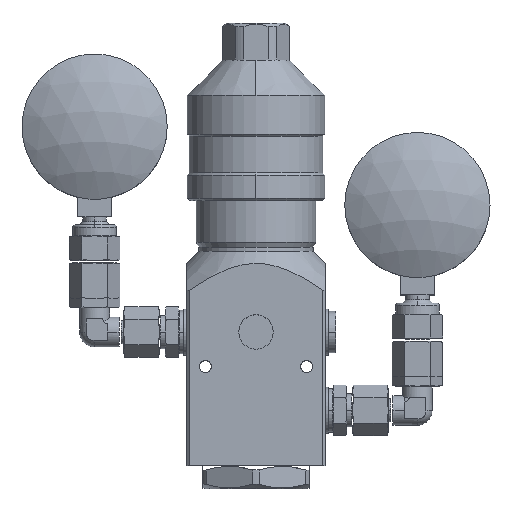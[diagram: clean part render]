
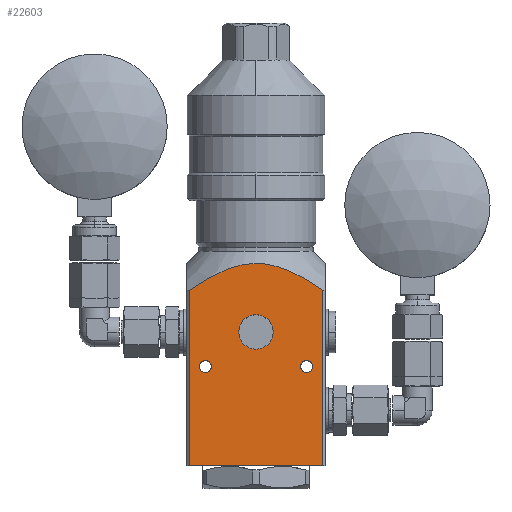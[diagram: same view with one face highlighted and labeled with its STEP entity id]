
A CAD part, top view. The second image highlights one B-rep face of the part: STEP entity #22603.
In plain terms, the highlighted planar face has unit normal (0, 0, 1).
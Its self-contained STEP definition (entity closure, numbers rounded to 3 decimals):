
#59 = CARTESIAN_POINT ( 'NONE',  ( 7.053, 96.938, 30. ) ) ;
#76 = EDGE_CURVE ( 'NONE', #4146, #11658, #7155, .T. ) ;
#170 = DIRECTION ( 'NONE',  ( -1., 0., 0. ) ) ;
#496 = CARTESIAN_POINT ( 'NONE',  ( 0., 68., 30. ) ) ;
#589 = CARTESIAN_POINT ( 'NONE',  ( 0., 10., 30. ) ) ;
#962 = CIRCLE ( 'NONE', #24621, 7.475 ) ;
#1525 = VERTEX_POINT ( 'NONE', #17436 ) ;
#1752 = CIRCLE ( 'NONE', #23111, 2.65 ) ;
#1847 = CARTESIAN_POINT ( 'NONE',  ( -29., 86.025, 30. ) ) ;
#1924 = CARTESIAN_POINT ( 'NONE',  ( -7.438, 96.848, 30. ) ) ;
#1992 = CARTESIAN_POINT ( 'NONE',  ( 12.776, 95.215, 30. ) ) ;
#2065 = CARTESIAN_POINT ( 'NONE',  ( -29., 10., 30. ) ) ;
#2164 = ORIENTED_EDGE ( 'NONE', *, *, #8596, .T. ) ;
#2239 = CARTESIAN_POINT ( 'NONE',  ( 0., 68., 30. ) ) ;
#2438 = DIRECTION ( 'NONE',  ( 1., 0., 0. ) ) ;
#2689 = DIRECTION ( 'NONE',  ( 0., 0., 1. ) ) ;
#3313 = B_SPLINE_CURVE_WITH_KNOTS ( 'NONE', 3,
 ( #1847, #20904, #9506, #22820, #11475, #24710, #13356, #1924, #15249, #3853, #17165, #5751, #19090, #7659, #20975, #9589, #22892, #11548, #59, #13441, #1992, #15329, #3929, #17253, #5818, #19176, #7735, #21048 ),
 .UNSPECIFIED., .F., .F.,
 ( 4, 2, 2, 2, 2, 2, 2, 2, 2, 2, 2, 2, 2, 4 ),
 ( 0., 0.008, 0.016, 0.023, 0.025, 0.027, 0.031, 0.035, 0.037, 0.039, 0.047, 0.051, 0.055, 0.063 ),
 .UNSPECIFIED. ) ;
#3622 = CARTESIAN_POINT ( 'NONE',  ( 29., 10., 30. ) ) ;
#3816 = EDGE_CURVE ( 'NONE', #23289, #4146, #3313, .T. ) ;
#3853 = CARTESIAN_POINT ( 'NONE',  ( -5.471, 97.262, 30. ) ) ;
#3929 = CARTESIAN_POINT ( 'NONE',  ( 17.627, 92.969, 30. ) ) ;
#4146 = VERTEX_POINT ( 'NONE', #16387 ) ;
#4152 = DIRECTION ( 'NONE',  ( 1., 0., 0. ) ) ;
#4468 = EDGE_LOOP ( 'NONE', ( #14265, #2164, #23247, #21117 ) ) ;
#4993 = EDGE_LOOP ( 'NONE', ( #19488, #20575 ) ) ;
#5709 = CARTESIAN_POINT ( 'NONE',  ( -29., 125.015, 30. ) ) ;
#5751 = CARTESIAN_POINT ( 'NONE',  ( -2.843, 97.644, 30. ) ) ;
#5818 = CARTESIAN_POINT ( 'NONE',  ( 21.143, 91.06, 30. ) ) ;
#5948 = VECTOR ( 'NONE', #10641, 1000. ) ;
#6138 = AXIS2_PLACEMENT_3D ( 'NONE', #2239, #15558, #4152 ) ;
#6564 = EDGE_LOOP ( 'NONE', ( #15230, #21639 ) ) ;
#6759 = AXIS2_PLACEMENT_3D ( 'NONE', #7937, #21254, #9896 ) ;
#7147 = FACE_BOUND ( 'NONE', #4993, .T. ) ;
#7155 = LINE ( 'NONE', #9078, #5948 ) ;
#7608 = DIRECTION ( 'NONE',  ( 0., -1., 0. ) ) ;
#7659 = CARTESIAN_POINT ( 'NONE',  ( 1.111, 97.758, 30. ) ) ;
#7734 = FACE_OUTER_BOUND ( 'NONE', #4468, .T. ) ;
#7735 = CARTESIAN_POINT ( 'NONE',  ( 26.806, 87.549, 30. ) ) ;
#7889 = CARTESIAN_POINT ( 'NONE',  ( -24.65, 53., 30. ) ) ;
#7937 = CARTESIAN_POINT ( 'NONE',  ( -22., 53., 30. ) ) ;
#8596 = EDGE_CURVE ( 'NONE', #23289, #19278, #9803, .T. ) ;
#9078 = CARTESIAN_POINT ( 'NONE',  ( 29., 125.015, 30. ) ) ;
#9327 = CARTESIAN_POINT ( 'NONE',  ( 22., 53., 30. ) ) ;
#9448 = VERTEX_POINT ( 'NONE', #7889 ) ;
#9463 = VERTEX_POINT ( 'NONE', #21211 ) ;
#9506 = CARTESIAN_POINT ( 'NONE',  ( -24.638, 88.971, 30. ) ) ;
#9589 = CARTESIAN_POINT ( 'NONE',  ( 4.42, 97.433, 30. ) ) ;
#9803 = LINE ( 'NONE', #5709, #19338 ) ;
#9896 = DIRECTION ( 'NONE',  ( -1., 0., 0. ) ) ;
#10037 = DIRECTION ( 'NONE',  ( 0., 0., -1. ) ) ;
#10064 = EDGE_CURVE ( 'NONE', #15206, #17975, #10385, .T. ) ;
#10116 = DIRECTION ( 'NONE',  ( 1., 0., 0. ) ) ;
#10385 = CIRCLE ( 'NONE', #19588, 2.65 ) ;
#10641 = DIRECTION ( 'NONE',  ( 0., -1., 0. ) ) ;
#10900 = CARTESIAN_POINT ( 'NONE',  ( -19.35, 53., 30. ) ) ;
#11299 = DIRECTION ( 'NONE',  ( -1., 0., 0. ) ) ;
#11475 = CARTESIAN_POINT ( 'NONE',  ( -17.853, 92.903, 30. ) ) ;
#11548 = CARTESIAN_POINT ( 'NONE',  ( 6.401, 97.081, 30. ) ) ;
#11658 = VERTEX_POINT ( 'NONE', #3622 ) ;
#11668 = DIRECTION ( 'NONE',  ( 0., 0., 1. ) ) ;
#12252 = FACE_BOUND ( 'NONE', #18120, .T. ) ;
#13356 = CARTESIAN_POINT ( 'NONE',  ( -10.66, 96.01, 30. ) ) ;
#13440 = FACE_BOUND ( 'NONE', #6564, .T. ) ;
#13441 = CARTESIAN_POINT ( 'NONE',  ( 10.283, 96.135, 30. ) ) ;
#13862 = DIRECTION ( 'NONE',  ( 0., 0., 1. ) ) ;
#14006 = EDGE_CURVE ( 'NONE', #17975, #15206, #1752, .T. ) ;
#14110 = CARTESIAN_POINT ( 'NONE',  ( 22., 53., 30. ) ) ;
#14265 = ORIENTED_EDGE ( 'NONE', *, *, #3816, .F. ) ;
#14876 = CARTESIAN_POINT ( 'NONE',  ( 19.35, 53., 30. ) ) ;
#15206 = VERTEX_POINT ( 'NONE', #19055 ) ;
#15230 = ORIENTED_EDGE ( 'NONE', *, *, #24670, .F. ) ;
#15249 = CARTESIAN_POINT ( 'NONE',  ( -6.782, 97., 30. ) ) ;
#15329 = CARTESIAN_POINT ( 'NONE',  ( 16.427, 93.564, 30. ) ) ;
#15395 = EDGE_CURVE ( 'NONE', #19278, #11658, #18695, .T. ) ;
#15558 = DIRECTION ( 'NONE',  ( 0., 0., 1. ) ) ;
#15673 = CARTESIAN_POINT ( 'NONE',  ( -29., 125.015, 30. ) ) ;
#16003 = DIRECTION ( 'NONE',  ( -1., 0., 0. ) ) ;
#16310 = CIRCLE ( 'NONE', #6759, 2.65 ) ;
#16387 = CARTESIAN_POINT ( 'NONE',  ( 29., 86.025, 30. ) ) ;
#17081 = EDGE_CURVE ( 'NONE', #1525, #9463, #21270, .T. ) ;
#17165 = CARTESIAN_POINT ( 'NONE',  ( -4.814, 97.373, 30. ) ) ;
#17253 = CARTESIAN_POINT ( 'NONE',  ( 19.984, 91.717, 30. ) ) ;
#17436 = CARTESIAN_POINT ( 'NONE',  ( 7.475, 68., 30. ) ) ;
#17975 = VERTEX_POINT ( 'NONE', #14876 ) ;
#18120 = EDGE_LOOP ( 'NONE', ( #24673, #20991 ) ) ;
#18695 = LINE ( 'NONE', #589, #23133 ) ;
#19055 = CARTESIAN_POINT ( 'NONE',  ( 24.65, 53., 30. ) ) ;
#19090 = CARTESIAN_POINT ( 'NONE',  ( -1.527, 97.74, 30. ) ) ;
#19176 = CARTESIAN_POINT ( 'NONE',  ( 24.576, 89.012, 30. ) ) ;
#19278 = VERTEX_POINT ( 'NONE', #2065 ) ;
#19338 = VECTOR ( 'NONE', #7608, 1000. ) ;
#19488 = ORIENTED_EDGE ( 'NONE', *, *, #14006, .F. ) ;
#19588 = AXIS2_PLACEMENT_3D ( 'NONE', #9327, #22648, #11299 ) ;
#20575 = ORIENTED_EDGE ( 'NONE', *, *, #10064, .F. ) ;
#20813 = CARTESIAN_POINT ( 'NONE',  ( -29., 86.025, 30. ) ) ;
#20904 = CARTESIAN_POINT ( 'NONE',  ( -26.835, 87.53, 30. ) ) ;
#20975 = CARTESIAN_POINT ( 'NONE',  ( 2.433, 97.68, 30. ) ) ;
#20991 = ORIENTED_EDGE ( 'NONE', *, *, #24707, .F. ) ;
#21048 = CARTESIAN_POINT ( 'NONE',  ( 29., 86.025, 30. ) ) ;
#21117 = ORIENTED_EDGE ( 'NONE', *, *, #76, .F. ) ;
#21205 = CIRCLE ( 'NONE', #22076, 2.65 ) ;
#21211 = CARTESIAN_POINT ( 'NONE',  ( -7.475, 68., 30. ) ) ;
#21254 = DIRECTION ( 'NONE',  ( 0., 0., 1. ) ) ;
#21270 = CIRCLE ( 'NONE', #6138, 7.475 ) ;
#21411 = PLANE ( 'NONE',  #23175 ) ;
#21493 = VERTEX_POINT ( 'NONE', #10900 ) ;
#21639 = ORIENTED_EDGE ( 'NONE', *, *, #24451, .F. ) ;
#22076 = AXIS2_PLACEMENT_3D ( 'NONE', #23009, #11668, #170 ) ;
#22603 = ADVANCED_FACE ( 'NONE', ( #7734, #7147, #13440, #12252 ), #21411, .F. ) ;
#22648 = DIRECTION ( 'NONE',  ( 0., 0., 1. ) ) ;
#22820 = CARTESIAN_POINT ( 'NONE',  ( -20.147, 91.658, 30. ) ) ;
#22892 = CARTESIAN_POINT ( 'NONE',  ( 5.085, 97.329, 30. ) ) ;
#23009 = CARTESIAN_POINT ( 'NONE',  ( -22., 53., 30. ) ) ;
#23111 = AXIS2_PLACEMENT_3D ( 'NONE', #14110, #2689, #16003 ) ;
#23133 = VECTOR ( 'NONE', #10116, 1000. ) ;
#23175 = AXIS2_PLACEMENT_3D ( 'NONE', #15673, #10037, #23328 ) ;
#23247 = ORIENTED_EDGE ( 'NONE', *, *, #15395, .T. ) ;
#23289 = VERTEX_POINT ( 'NONE', #20813 ) ;
#23328 = DIRECTION ( 'NONE',  ( -1., 0., 0. ) ) ;
#24451 = EDGE_CURVE ( 'NONE', #21493, #9448, #16310, .T. ) ;
#24621 = AXIS2_PLACEMENT_3D ( 'NONE', #496, #13862, #2438 ) ;
#24670 = EDGE_CURVE ( 'NONE', #9448, #21493, #21205, .T. ) ;
#24673 = ORIENTED_EDGE ( 'NONE', *, *, #17081, .F. ) ;
#24707 = EDGE_CURVE ( 'NONE', #9463, #1525, #962, .T. ) ;
#24710 = CARTESIAN_POINT ( 'NONE',  ( -13.11, 95.079, 30. ) ) ;
